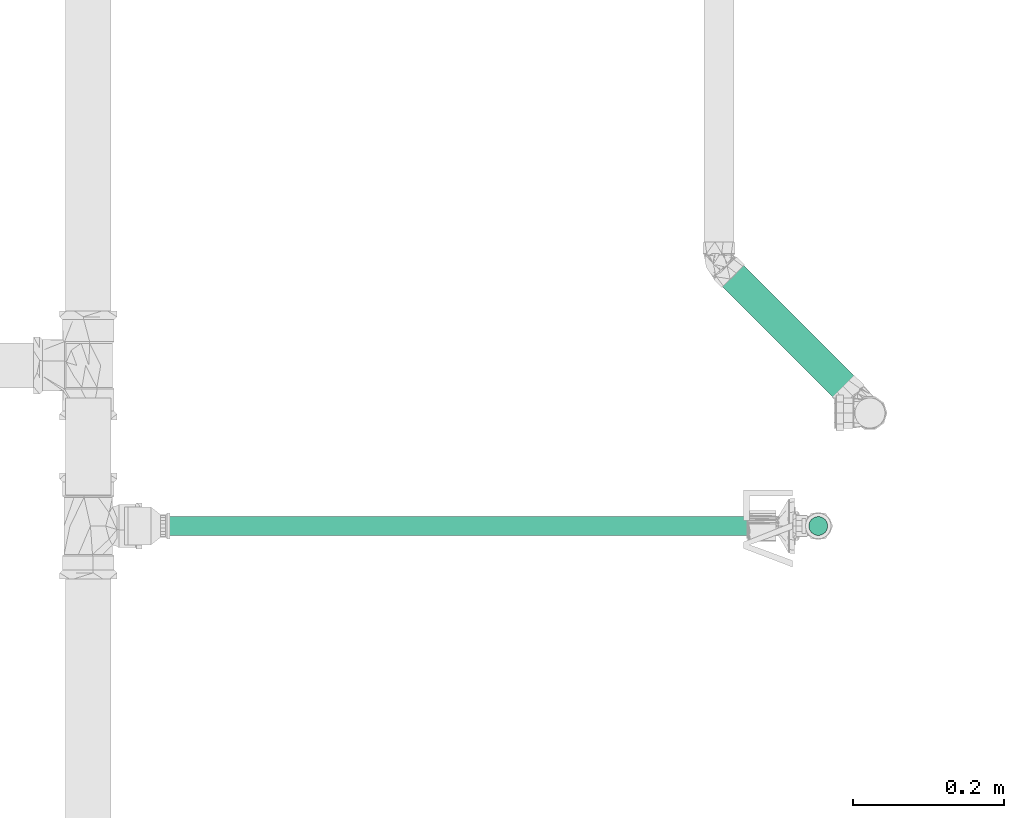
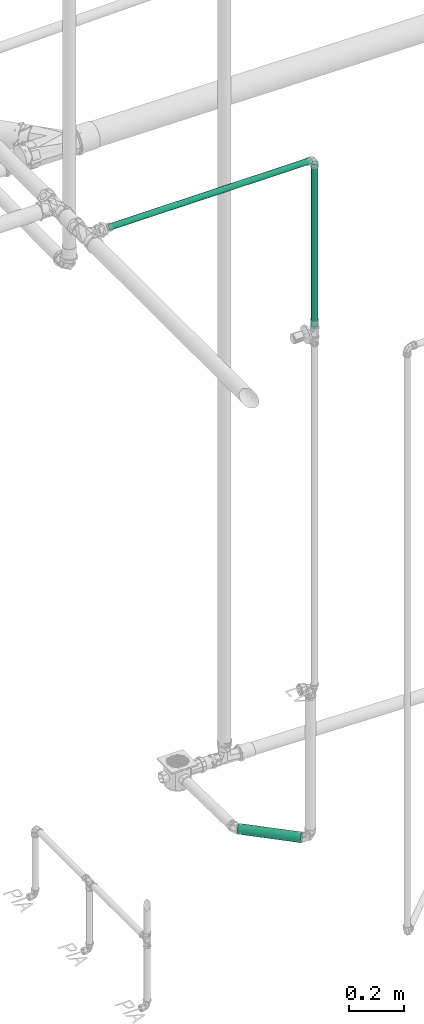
# One storey, part 267 of 589: 3 flow segments.
"""IFC2X3 building model written with IfcOpenShell, lengths in millimetres."""

from ifc_helpers import new_model, entity, si_unit, converted_unit, derived_unit, direction, frame, frame_2d, origin, origin_2d_with_axis, place, context, subcontext, project, spatial, circle, extrude, type_object, element, save


model = new_model("IFC2X3")

# Units and contexts
model_context = context("Model", 3, precision=0.01, world=origin(), true_north=direction((6.123031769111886e-17, 1.0)))
body_context = subcontext(model_context, "Body", "Model", "MODEL_VIEW")
ifc_project = project(units=[si_unit("LENGTHUNIT", "METRE", prefix="MILLI"), si_unit("AREAUNIT", "SQUARE_METRE"), si_unit("VOLUMEUNIT", "CUBIC_METRE"), converted_unit("PLANEANGLEUNIT", "DEGREE", entity("IfcRatioMeasure", 0.017453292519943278), si_unit("PLANEANGLEUNIT", "RADIAN"), dimensions=[0, 0, 0, 0, 0, 0, 0]), si_unit("MASSUNIT", "GRAM", prefix="KILO"), derived_unit("MASSDENSITYUNIT", [(si_unit("MASSUNIT", "GRAM", prefix="KILO"), 1), (si_unit("LENGTHUNIT", "METRE"), -3)]), derived_unit("IONCONCENTRATIONUNIT", [(si_unit("MASSUNIT", "GRAM", prefix="KILO"), 1), (si_unit("LENGTHUNIT", "METRE"), -3)]), derived_unit("MOMENTOFINERTIAUNIT", [(si_unit("LENGTHUNIT", "METRE"), 4)]), si_unit("TIMEUNIT", "SECOND"), si_unit("FREQUENCYUNIT", "HERTZ"), si_unit("THERMODYNAMICTEMPERATUREUNIT", "DEGREE_CELSIUS"), derived_unit("THERMALTRANSMITTANCEUNIT", [(si_unit("MASSUNIT", "GRAM", prefix="KILO"), 1), (si_unit("THERMODYNAMICTEMPERATUREUNIT", "KELVIN"), -1), (si_unit("TIMEUNIT", "SECOND"), -3)]), derived_unit("THERMALCONDUCTANCEUNIT", [(si_unit("MASSUNIT", "GRAM", prefix="KILO"), 1), (si_unit("THERMODYNAMICTEMPERATUREUNIT", "KELVIN"), -1), (si_unit("TIMEUNIT", "SECOND"), -3), (si_unit("LENGTHUNIT", "METRE"), 1)]), derived_unit("VOLUMETRICFLOWRATEUNIT", [(si_unit("LENGTHUNIT", "METRE"), 3), (si_unit("TIMEUNIT", "SECOND"), -1)]), derived_unit("MASSFLOWRATEUNIT", [(si_unit("MASSUNIT", "GRAM", prefix="KILO"), 1), (si_unit("TIMEUNIT", "SECOND"), -1)]), derived_unit("ROTATIONALFREQUENCYUNIT", [(si_unit("TIMEUNIT", "SECOND"), -1)]), si_unit("ELECTRICCURRENTUNIT", "AMPERE"), si_unit("ELECTRICVOLTAGEUNIT", "VOLT"), si_unit("POWERUNIT", "WATT"), si_unit("FORCEUNIT", "NEWTON", prefix="KILO"), si_unit("ILLUMINANCEUNIT", "LUX"), si_unit("LUMINOUSFLUXUNIT", "LUMEN"), si_unit("LUMINOUSINTENSITYUNIT", "CANDELA"), derived_unit("USERDEFINED", [(si_unit("MASSUNIT", "GRAM", prefix="KILO"), -1), (si_unit("LENGTHUNIT", "METRE"), -2), (si_unit("TIMEUNIT", "SECOND"), 3), (si_unit("LUMINOUSFLUXUNIT", "LUMEN"), 1)]), derived_unit("USERDEFINED", [(si_unit("MASSUNIT", "GRAM", prefix="KILO"), 1), (si_unit("TIMEUNIT", "SECOND"), -3), (si_unit("LENGTHUNIT", "METRE"), 3), (si_unit("ELECTRICCURRENTUNIT", "AMPERE"), -2)]), derived_unit("SOUNDPOWERUNIT", [(si_unit("MASSUNIT", "GRAM", prefix="KILO"), 1), (si_unit("TIMEUNIT", "SECOND"), -3), (si_unit("LENGTHUNIT", "METRE"), 2)]), derived_unit("SOUNDPRESSUREUNIT", [(si_unit("MASSUNIT", "GRAM", prefix="KILO"), 1), (si_unit("LENGTHUNIT", "METRE"), -1), (si_unit("TIMEUNIT", "SECOND"), -2)]), derived_unit("LINEARVELOCITYUNIT", [(si_unit("LENGTHUNIT", "METRE"), 1), (si_unit("TIMEUNIT", "SECOND"), -1)]), si_unit("PRESSUREUNIT", "PASCAL"), derived_unit("USERDEFINED", [(si_unit("MASSUNIT", "GRAM", prefix="KILO"), 1), (si_unit("LENGTHUNIT", "METRE"), -2), (si_unit("TIMEUNIT", "SECOND"), -2)]), derived_unit("LINEARFORCEUNIT", [(si_unit("MASSUNIT", "GRAM", prefix="KILO"), 1), (si_unit("TIMEUNIT", "SECOND"), -2)]), derived_unit("PLANARFORCEUNIT", [(si_unit("MASSUNIT", "GRAM", prefix="KILO"), 1), (si_unit("LENGTHUNIT", "METRE"), -1), (si_unit("TIMEUNIT", "SECOND"), -2)]), derived_unit("SPECIFICHEATCAPACITYUNIT", [(si_unit("THERMODYNAMICTEMPERATUREUNIT", "KELVIN"), -1), (si_unit("LENGTHUNIT", "METRE"), 2), (si_unit("TIMEUNIT", "SECOND"), -2)]), derived_unit("HEATINGVALUEUNIT", [(si_unit("LENGTHUNIT", "METRE"), 2), (si_unit("TIMEUNIT", "SECOND"), -2)]), derived_unit("VAPORPERMEABILITYUNIT", [(si_unit("LENGTHUNIT", "METRE"), -1), (si_unit("TIMEUNIT", "SECOND"), 1)]), derived_unit("DYNAMICVISCOSITYUNIT", [(si_unit("MASSUNIT", "GRAM", prefix="KILO"), 1), (si_unit("TIMEUNIT", "SECOND"), -1), (si_unit("LENGTHUNIT", "METRE"), -1)]), derived_unit("THERMALEXPANSIONCOEFFICIENTUNIT", [(si_unit("THERMODYNAMICTEMPERATUREUNIT", "KELVIN"), -1)]), derived_unit("MODULUSOFELASTICITYUNIT", [(si_unit("MASSUNIT", "GRAM", prefix="KILO"), 1), (si_unit("LENGTHUNIT", "METRE"), -1), (si_unit("TIMEUNIT", "SECOND"), -2)]), derived_unit("ISOTHERMALMOISTURECAPACITYUNIT", [(si_unit("LENGTHUNIT", "METRE"), 3), (si_unit("MASSUNIT", "GRAM", prefix="KILO"), -1)]), derived_unit("MOISTUREDIFFUSIVITYUNIT", [(si_unit("TIMEUNIT", "SECOND"), -1), (si_unit("LENGTHUNIT", "METRE"), 2)])], contexts=[model_context])

# Site, building, storey
site_placement = place(None, origin())
site = spatial("IfcSite", under=ifc_project, at=site_placement, Name="Default", CompositionType="ELEMENT")
building_placement = place(site_placement, origin())
building = spatial("IfcBuilding", under=site, at=building_placement, CompositionType="ELEMENT")
storey_placement = place(building_placement, frame((0.0, 0.0, 100.0)))
storey = spatial("IfcBuildingStorey", under=building, at=storey_placement, Name="TÉRREO", CompositionType="ELEMENT", Elevation=100.0)

# Flow segments
pipe_segment_type_1 = type_object("IfcPipeSegmentType", Name="Tipos de tubos:PVC Esgoto Série Normal", PredefinedType="NOTDEFINED")
flow_segment_1_placement = place(storey_placement, origin())
element("IfcFlowSegment", 1, at=flow_segment_1_placement, inside=storey, type_object=pipe_segment_type_1, Name="Tipos de tubos:PVC Esgoto Série Normal", ObjectType="Tipos de tubos:PVC Esgoto Série Normal", context=body_context, shape_type="SweptSolid", body=[
    extrude(circle(Radius=20.0, at=frame_2d((3.8288962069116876e-13, 2.4446078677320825e-14), x_axis=(1.0, 0.0))), frame((4891.438331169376, 2553.1644805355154, -183.2279401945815), z_axis=(0.707040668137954, -0.7068993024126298, 0.019669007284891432), x_axis=(0.7070360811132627, 0.707177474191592, 0.0)), (0.0, 0.0, 1.0), 239.53162066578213),
])
pipe_segment_type_2 = type_object("IfcPipeSegmentType", Name="Tipos de tubos:PVC Marrom Soldável", PredefinedType="NOTDEFINED")
flow_segment_2_placement = place(storey_placement, origin())
element("IfcFlowSegment", 2, at=flow_segment_2_placement, inside=storey, type_object=pipe_segment_type_2, Name="Tipos de tubos:PVC Marrom Soldável", ObjectType="Tipos de tubos:PVC Marrom Soldável", context=body_context, shape_type="SweptSolid", body=[
    extrude(circle(Radius=12.5, at=frame_2d((-1.6243006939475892e-12, 0.0), x_axis=(1.0, 0.0))), frame((4141.688368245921, 2211.070317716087, 2970.0), z_axis=(1.0, 0.0, 0.0), x_axis=(0.0, 1.0, 0.0)), (0.0, 0.0, 1.0), 857.8845994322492),
])
flow_segment_3_placement = place(storey_placement, origin())
element("IfcFlowSegment", 3, at=flow_segment_3_placement, inside=storey, type_object=pipe_segment_type_2, Name="Tipos de tubos:PVC Marrom Soldável", ObjectType="Tipos de tubos:PVC Marrom Soldável", context=body_context, shape_type="SweptSolid", body=[
    extrude(circle(Radius=12.5, at=origin_2d_with_axis()), frame((5014.97296767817, 2211.0703177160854, 2220.0), z_axis=(0.0, 0.0, 1.0), x_axis=(-1.0, 0.0, 0.0)), (0.0, 0.0, 1.0), 734.60000000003),
])

save(model, "model.ifc")
